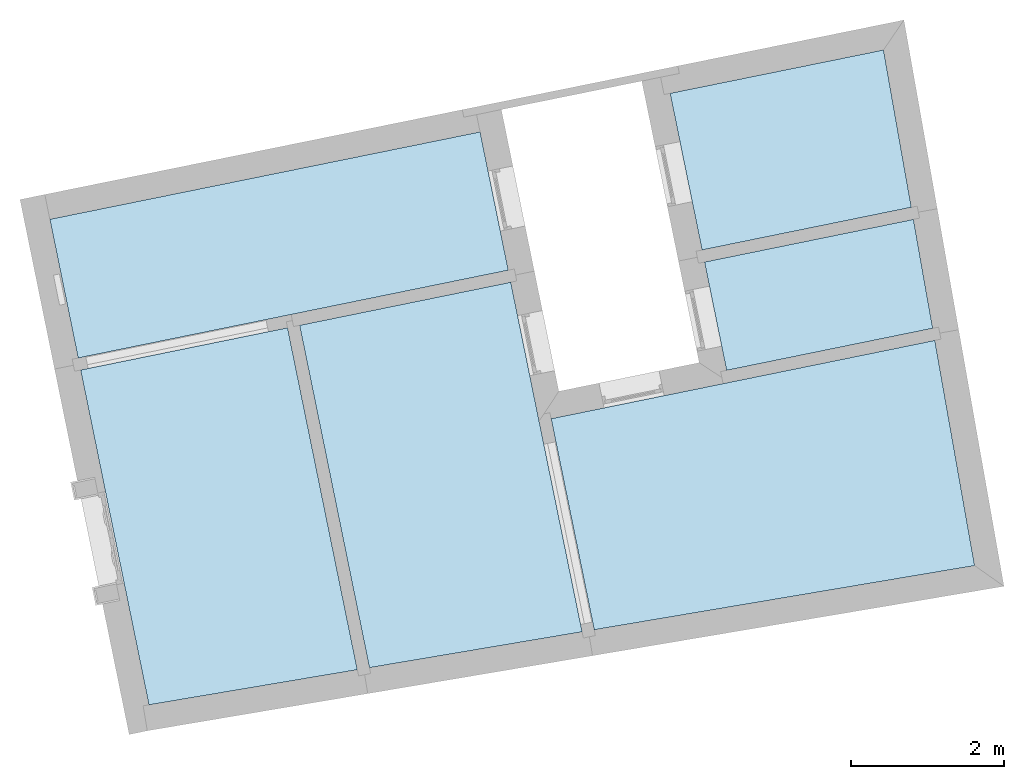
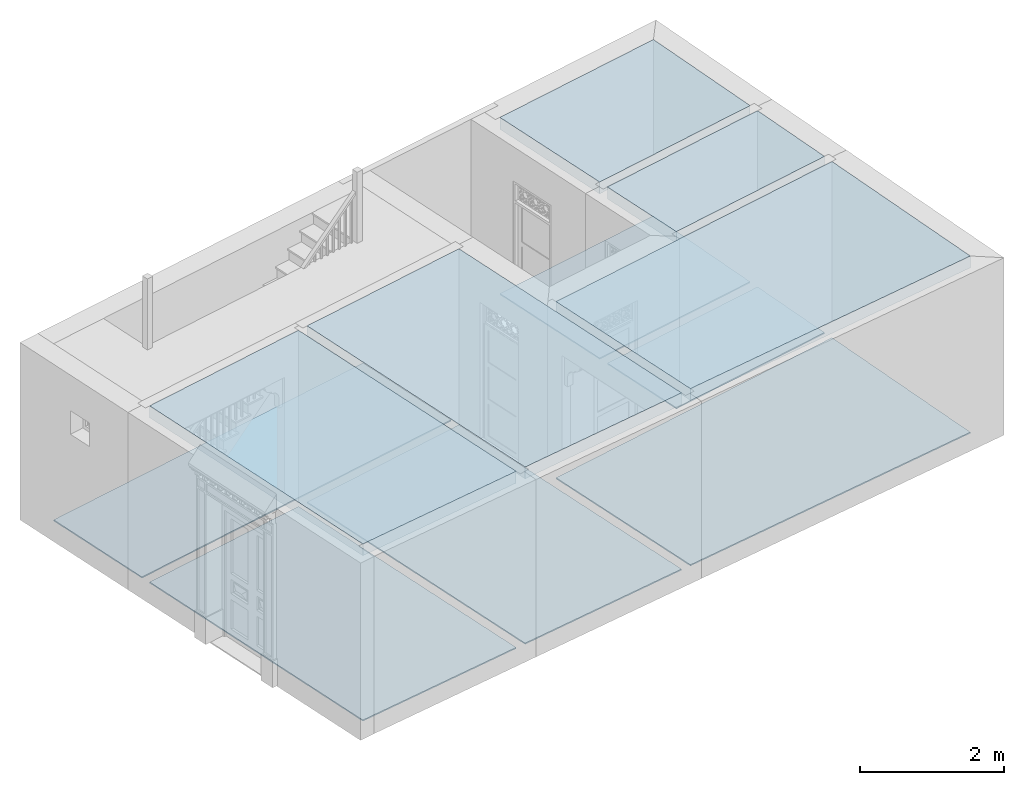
# One storey, part 1 of 11: 11 slabs.
"""IFC4 building model written with IfcOpenShell, lengths in metres."""

import ifcopenshell
import ifcopenshell.guid

model = None  # the IFC model being written
_history = None  # IfcOwnerHistory: only IFC2X3 demands one
_inside = {}  # id of a spatial element -> (the spatial element, [elements in it])
_under = {}  # id of a project, library or spatial element -> (it, [spatial elements below it])
_declared = {}  # id of a project -> (the project, [libraries it declares])
_typed = {}  # id of a type object -> (the type object, [elements of that type])
_made_of = {}  # id of a material, layer set ... -> (it, [elements and type objects made of it])


def new_model(schema):
    """Start an empty IFC model of exactly this schema.

    Asked for "IFC4X3", IfcOpenShell would pick the latest addendum, in which some entities
    have other attributes; the version numbers below select the first issue.
    IFC2X3 requires an IfcOwnerHistory on every rooted entity: one is made here for all.
    """
    global model, _history
    if schema == "IFC4X3":
        model = ifcopenshell.file(schema_version=(4, 3, 0, 0))
    else:
        model = ifcopenshell.file(schema=schema)
    _inside.clear()
    _under.clear()
    _declared.clear()
    _typed.clear()
    _made_of.clear()
    _history = None
    if model.schema == "IFC2X3":
        org = make("IfcOrganization", Name="unknown")
        user = make(
            "IfcPersonAndOrganization",
            ThePerson=make("IfcPerson", FamilyName="unknown"),
            TheOrganization=org,
        )
        app = make(
            "IfcApplication",
            ApplicationDeveloper=org,
            Version="unknown",
            ApplicationFullName="unknown",
            ApplicationIdentifier="unknown",
        )
        _history = make(
            "IfcOwnerHistory",
            OwningUser=user,
            OwningApplication=app,
            ChangeAction="ADDED",
            CreationDate=0,
        )
    return model


def make(cls, **values):
    """One entity of the class cls with the attributes given. An attribute that is None is left unset."""
    return model.create_entity(
        cls, **{name: value for name, value in values.items() if value is not None}
    )


def rooted(cls, **values):
    """An entity with a GlobalId (a new one), such as an element, a storey or a relation."""
    return make(cls, GlobalId=ifcopenshell.guid.new(), OwnerHistory=_history, **values)


def si_unit(unit_type, name, prefix=None):
    """IfcSIUnit, for example si_unit("LENGTHUNIT", "METRE", prefix="MILLI")."""
    return make("IfcSIUnit", UnitType=unit_type, Prefix=prefix, Name=name)


def assignment(units):
    """IfcUnitAssignment: the units of a project."""
    return None if units is None else make("IfcUnitAssignment", Units=units)


def point(xyz):
    """IfcCartesianPoint."""
    return None if xyz is None else make("IfcCartesianPoint", Coordinates=xyz)


def direction(xyz):
    """IfcDirection."""
    return None if xyz is None else make("IfcDirection", DirectionRatios=xyz)


def frame(location, z_axis=None, x_axis=None):
    """IfcAxis2Placement3D, a coordinate frame: its origin and axes. An axis left out is left unset."""
    return make(
        "IfcAxis2Placement3D",
        Location=point(location),
        Axis=direction(z_axis),
        RefDirection=direction(x_axis),
    )


def origin_with_axes():
    """The frame at (0, 0, 0) with the z axis (0, 0, 1) and the x axis (1, 0, 0) written out."""
    return frame((0.0, 0.0, 0.0), z_axis=(0.0, 0.0, 1.0), x_axis=(1.0, 0.0, 0.0))


def place(relative_to, where):
    """IfcLocalPlacement: puts the frame where relative to a parent placement (None: the world)."""
    return make(
        "IfcLocalPlacement", PlacementRelTo=relative_to, RelativePlacement=where
    )


def context(
    kind, dimensions, precision=None, world=None, true_north=None, identifier=None
):
    """IfcGeometricRepresentationContext, for example the 3D "Model" context."""
    return make(
        "IfcGeometricRepresentationContext",
        ContextIdentifier=identifier,
        ContextType=kind,
        CoordinateSpaceDimension=dimensions,
        Precision=precision,
        WorldCoordinateSystem=world,
        TrueNorth=true_north,
    )


def subcontext(parent, identifier, kind, view, scale=None):
    """IfcGeometricRepresentationSubContext, for example "Body" below "Model"."""
    return make(
        "IfcGeometricRepresentationSubContext",
        ContextIdentifier=identifier,
        ContextType=kind,
        ParentContext=parent,
        TargetScale=scale,
        TargetView=view,
    )


def project(units=None, contexts=None):
    """IfcProject with its units and contexts."""
    return rooted(
        "IfcProject",
        Name="project",
        RepresentationContexts=contexts,
        UnitsInContext=assignment(units),
    )


def spatial(cls, under=None, at=None, **own):
    """A site, building, storey or space (cls), placed at a placement, below another one or the project."""
    s = rooted(cls, ObjectPlacement=at, **own)
    if under is not None:
        _under.setdefault(under.id(), (under, []))[1].append(s)
    return s


def polyline(points):
    """IfcPolyline through the points."""
    return make("IfcPolyline", Points=[point(p) for p in points])


def outline(outer, holes=None, kind="AREA"):
    """IfcArbitraryClosedProfileDef: a profile drawn as a closed curve; with holes, ...WithVoids."""
    if holes is None:
        return make("IfcArbitraryClosedProfileDef", ProfileType=kind, OuterCurve=outer)
    return make(
        "IfcArbitraryProfileDefWithVoids",
        ProfileType=kind,
        OuterCurve=outer,
        InnerCurves=holes,
    )


def extrude(swept, where, along, depth):
    """IfcExtrudedAreaSolid: the profile swept, set in the frame where, extruded along a direction by depth."""
    return make(
        "IfcExtrudedAreaSolid",
        SweptArea=swept,
        Position=where,
        ExtrudedDirection=direction(along),
        Depth=depth,
    )


def shape(context_of_items, identifier, shape_type, items):
    """IfcShapeRepresentation: the items that make up one representation, for example the "Body"."""
    return make(
        "IfcShapeRepresentation",
        ContextOfItems=context_of_items,
        RepresentationIdentifier=identifier,
        RepresentationType=shape_type,
        Items=items,
    )


def made_of(thing, what):
    """Note that an element or type object is made of a material, layer set ...; save() writes the relation."""
    if what is not None:
        _made_of.setdefault(what.id(), (what, []))[1].append(thing)
    return thing


def element(
    cls,
    number,
    at=None,
    inside=None,
    cuts=None,
    type_object=None,
    material=None,
    context=None,
    identifier="Body",
    shape_type=None,
    held_by="IfcProductDefinitionShape",
    body=None,
    shapes=None,
    **own,
):
    """One element of the class cls, such as IfcWall. Its Tag is "e" and its number.

    at: its placement. inside: the storey or other place that contains it. cuts: it is an
    opening in that element (IfcRelVoidsElement). A single representation is given by context,
    identifier, shape_type and body (its items); several are given by shapes. held_by: the class
    of the entity that holds the representations. save() writes the other relations.
    """
    e = rooted(cls, Tag="e%d" % number, ObjectPlacement=at, **own)
    if body is not None:
        shapes = [shape(context, identifier, shape_type, body)]
    if shapes is not None:
        e.Representation = make(held_by, Representations=shapes)
    if inside is not None:
        _inside.setdefault(inside.id(), (inside, []))[1].append(e)
    if cuts is not None:
        rooted(
            "IfcRelVoidsElement", RelatingBuildingElement=cuts, RelatedOpeningElement=e
        )
    if type_object is not None:
        _typed.setdefault(type_object.id(), (type_object, []))[1].append(e)
    return made_of(e, material)


def aggregate(whole, parts):
    """IfcRelAggregates: a whole, such as a stair, and the parts it consists of."""
    return rooted("IfcRelAggregates", RelatingObject=whole, RelatedObjects=parts)


def save(model, path):
    """Write the relations noted so far, then the file.

    IfcRelAggregates (storeys below a building ...), IfcRelContainedInSpatialStructure (elements
    in a storey), IfcRelDefinesByType, IfcRelAssociatesMaterial and IfcRelDeclares: one each for
    every whole, place, type object, material and project.
    """
    for whole, parts in _under.values():
        aggregate(whole, parts)
    for where, things in _inside.values():
        rooted(
            "IfcRelContainedInSpatialStructure",
            RelatedElements=things,
            RelatingStructure=where,
        )
    for kind, things in _typed.values():
        rooted("IfcRelDefinesByType", RelatedObjects=things, RelatingType=kind)
    for what, things in _made_of.values():
        rooted("IfcRelAssociatesMaterial", RelatedObjects=things, RelatingMaterial=what)
    for by, libraries in _declared.values():
        rooted("IfcRelDeclares", RelatingContext=by, RelatedDefinitions=libraries)
    model.write(path)


model = new_model("IFC4")

# Units and contexts
model_context = context("Model", 3, world=origin_with_axes())
body_context = subcontext(model_context, "Body", "Model", "MODEL_VIEW")
ifc_project = project(units=[si_unit("PLANEANGLEUNIT", "RADIAN"), si_unit("MASSUNIT", "GRAM", prefix="KILO"), si_unit("FORCEUNIT", "NEWTON", prefix="KILO"), si_unit("LENGTHUNIT", "METRE"), si_unit("AREAUNIT", "SQUARE_METRE"), si_unit("VOLUMEUNIT", "CUBIC_METRE")], contexts=[model_context, model_context])

# Site, building, storey
site_placement = place(None, origin_with_axes())
site = spatial("IfcSite", under=ifc_project, at=site_placement, Name="Site plot-7", CompositionType="ELEMENT")
building_placement = place(None, origin_with_axes())
building = spatial("IfcBuilding", under=site, at=building_placement, Name="Building plot-7", CompositionType="ELEMENT")
storey_placement = place(None, origin_with_axes())
storey = spatial("IfcBuildingStorey", under=building, at=storey_placement, Name="plot-7 0", CompositionType="ELEMENT", Elevation=0.0)

# Slabs
slab_1_placement = place(storey_placement, frame((-0.744675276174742, 9.48963174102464, 2.8)))
element("IfcSlab", 1, at=slab_1_placement, inside=storey, Name="My Slab", ObjectType="Slab", PredefinedType="FLOOR", context=body_context, shape_type="SweptSolid", body=[
    extrude(outline(polyline([(0.0, 0.0), (-0.250989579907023, 1.42035099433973), (-2.97573732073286, 0.864327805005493), (-2.68744792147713, -0.548411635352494), (0.0, 0.0)])), origin_with_axes(), (0.0, 0.0, 1.0), 0.2),
])
slab_2_placement = place(storey_placement, frame((-0.744675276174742, 9.48963174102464, 0.0)))
element("IfcSlab", 2, at=slab_2_placement, inside=storey, Name="My Slab", ObjectType="Slab", PredefinedType="FLOOR", context=body_context, shape_type="SweptSolid", body=[
    extrude(outline(polyline([(0.0, 0.0), (-0.250989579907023, 1.42035099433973), (-2.97573732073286, 0.864327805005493), (-2.68744792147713, -0.548411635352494), (0.0, 0.0)])), origin_with_axes(), (0.0, 0.0, 1.0), 0.02),
])
slab_3_placement = place(storey_placement, frame((-1.02351672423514, 11.0675965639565, 2.8)))
element("IfcSlab", 3, at=slab_3_placement, inside=storey, Name="My Slab", ObjectType="Slab", PredefinedType="FLOOR", context=body_context, shape_type="SweptSolid", body=[
    extrude(outline(polyline([(0.0, 0.0), (-0.362542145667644, 2.05162739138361), (-3.14582901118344, 1.48632438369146), (-2.72888683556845, -0.556867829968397), (0.0, 0.0)])), origin_with_axes(), (0.0, 0.0, 1.0), 0.2),
])
slab_4_placement = place(storey_placement, frame((-1.02351672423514, 11.0675965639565, 0.0)))
element("IfcSlab", 4, at=slab_4_placement, inside=storey, Name="My Slab", ObjectType="Slab", PredefinedType="FLOOR", context=body_context, shape_type="SweptSolid", body=[
    extrude(outline(polyline([(0.0, 0.0), (-0.362542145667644, 2.05162739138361), (-3.14582901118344, 1.48632438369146), (-2.72888683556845, -0.556867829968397), (0.0, 0.0)])), origin_with_axes(), (0.0, 0.0, 1.0), 0.02),
])
slab_5_placement = place(storey_placement, frame((-9.15748605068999, 9.49645441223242, 2.8)))
element("IfcSlab", 5, at=slab_5_placement, inside=storey, Name="My Slab", ObjectType="Slab", PredefinedType="FLOOR", context=body_context, shape_type="SweptSolid", body=[
    extrude(outline(polyline([(0.0, 0.0), (-2.69864684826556, -0.550696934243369), (-1.80760958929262, -4.9171546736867), (0.90989582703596, -4.45887266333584), (0.0, 0.0)])), origin_with_axes(), (0.0, 0.0, 1.0), 0.2),
])
slab_6_placement = place(storey_placement, frame((-9.15748605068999, 9.49645441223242, 0.0)))
element("IfcSlab", 6, at=slab_6_placement, inside=storey, Name="My Slab", ObjectType="Slab", PredefinedType="FLOOR", context=body_context, shape_type="SweptSolid", body=[
    extrude(outline(polyline([(0.0, 0.0), (-2.69864684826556, -0.550696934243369), (-1.80760958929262, -4.9171546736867), (0.90989582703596, -4.45887266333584), (0.0, 0.0)])), origin_with_axes(), (0.0, 0.0, 1.0), 0.02),
])
slab_7_placement = place(storey_placement, frame((-8.08972550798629, 5.06420416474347, 2.8)))
element("IfcSlab", 7, at=slab_7_placement, inside=storey, Name="My Slab", ObjectType="Slab", PredefinedType="FLOOR", context=body_context, shape_type="SweptSolid", body=[
    extrude(outline(polyline([(0.0, 0.0), (2.77315167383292, 0.467666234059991), (1.8429155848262, 5.02621474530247), (-0.910991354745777, 4.46424121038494), (0.0, 0.0)])), origin_with_axes(), (0.0, 0.0, 1.0), 0.2),
])
slab_8_placement = place(storey_placement, frame((-8.08972550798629, 5.06420416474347, 0.0)))
element("IfcSlab", 8, at=slab_8_placement, inside=storey, Name="My Slab", ObjectType="Slab", PredefinedType="FLOOR", context=body_context, shape_type="SweptSolid", body=[
    extrude(outline(polyline([(0.0, 0.0), (2.77315167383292, 0.467666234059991), (1.8429155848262, 5.02621474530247), (-0.910991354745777, 4.46424121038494), (0.0, 0.0)])), origin_with_axes(), (0.0, 0.0, 1.0), 0.02),
])
slab_9_placement = place(storey_placement, frame((-6.27880088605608, 10.2471880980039, 0.0)))
element("IfcSlab", 9, at=slab_9_placement, inside=storey, Name="My Slab", ObjectType="Slab", PredefinedType="FLOOR", context=body_context, shape_type="SweptSolid", body=[
    extrude(outline(polyline([(0.0, 0.0), (-0.36803747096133, 1.80353856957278), (-5.97841320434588, 0.664036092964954), (-5.60932297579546, -1.14466143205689), (0.0, 0.0)])), origin_with_axes(), (0.0, 0.0, 1.0), 0.02),
])
slab_10_placement = place(storey_placement, frame((-5.72039077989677, 8.31096945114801, 2.8)))
element("IfcSlab", 10, at=slab_10_placement, inside=storey, Name="My Slab", ObjectType="Slab", PredefinedType="FLOOR", context=body_context, shape_type="SweptSolid", body=[
    extrude(outline(polyline([(0.0, 0.0), (0.561681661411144, -2.75247663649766), (5.52254933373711, -1.91587244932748), (5.0035673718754, 1.02104846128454), (0.0, 0.0)])), origin_with_axes(), (0.0, 0.0, 1.0), 0.2),
])
slab_11_placement = place(storey_placement, frame((-5.72039077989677, 8.31096945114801, 0.0)))
element("IfcSlab", 11, at=slab_11_placement, inside=storey, Name="My Slab", ObjectType="Slab", PredefinedType="FLOOR", context=body_context, shape_type="SweptSolid", body=[
    extrude(outline(polyline([(0.0, 0.0), (0.561681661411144, -2.75247663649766), (5.52254933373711, -1.91587244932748), (5.0035673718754, 1.02104846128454), (0.0, 0.0)])), origin_with_axes(), (0.0, 0.0, 1.0), 0.02),
])

save(model, "model.ifc")
